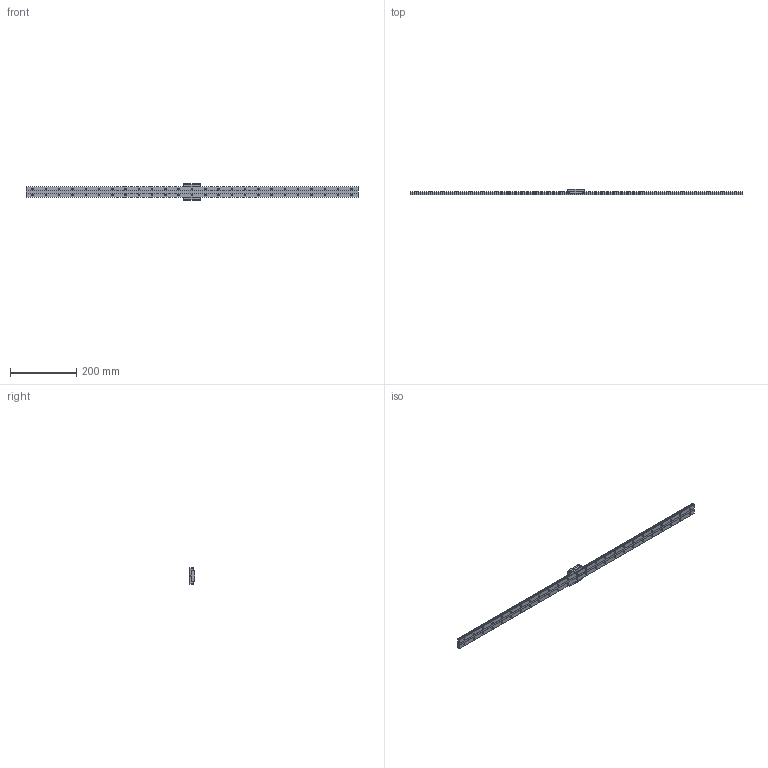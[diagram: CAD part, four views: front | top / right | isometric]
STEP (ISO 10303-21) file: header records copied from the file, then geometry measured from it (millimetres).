
FILE_DESCRIPTION( ( '' ), '1' );
FILE_NAME( 'C:/Users/v3-771-32344/Documents/Website 2016/STEP/SHW17CRM1UU1000200474.5000.stp', '2016-11-10T12:45:47', ( '' ), ( '' ), ' ', ' ', ' ' );
FILE_SCHEMA( ( 'CONFIG_CONTROL_DESIGN' ) );
Length unit declared in the file: millimetre
Products named in the file (2): 1; 2
Bounding box: 1000 x 17 x 50 mm (x, y, z)
Volume: 283042.4 mm3; surface area: 100655 mm2
Topology: 2 solids, 2 shells, 404 faces, 1024 edges, 672 vertices
Faces by surface type: cylinder 254, plane 134, cone 16
Entity records: 12620 total; most frequent: DIRECTION 2348, CARTESIAN_POINT 2094, ORIENTED_EDGE 2032, EDGE_CURVE 1016, AXIS2_PLACEMENT_3D 926, VERTEX_POINT 672, EDGE_LOOP 560, CIRCLE 512
